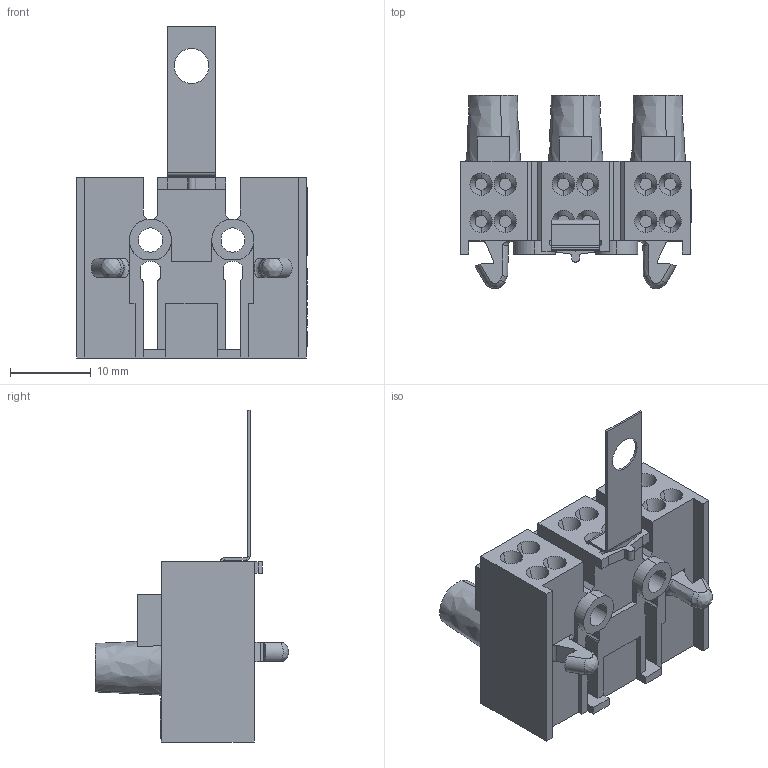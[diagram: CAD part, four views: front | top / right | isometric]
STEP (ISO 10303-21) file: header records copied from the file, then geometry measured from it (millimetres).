
FILE_DESCRIPTION((' '),'1');
FILE_NAME('00WYK02Y05.stp','2010-03-04 T14:07:43',(' '),(' '),'STEP Interface v1.0 by CT CoreTechnologie','3D_Evolution v1.0 by CT CoreTechnologie',' ');
FILE_SCHEMA(('CONFIG_CONTROL_DESIGN'));
Length unit declared in the file: millimetre
Products named in the file (1): 00WYK02Y05
Bounding box: 28.5 x 24 x 41.1 mm (x, y, z)
Volume: 6197.1 mm3; surface area: 5116.4 mm2
Topology: 1 solids, 1 shells, 434 faces, 1108 edges, 728 vertices
Faces by surface type: plane 300, cylinder 70, bspline 64
Entity records: 19815 total; most frequent: CARTESIAN_POINT 5379, ORIENTED_EDGE 2216, DIRECTION 2076, EDGE_CURVE 1108, VECTOR 818, LINE 818, VERTEX_POINT 728, AXIS2_PLACEMENT_3D 629
